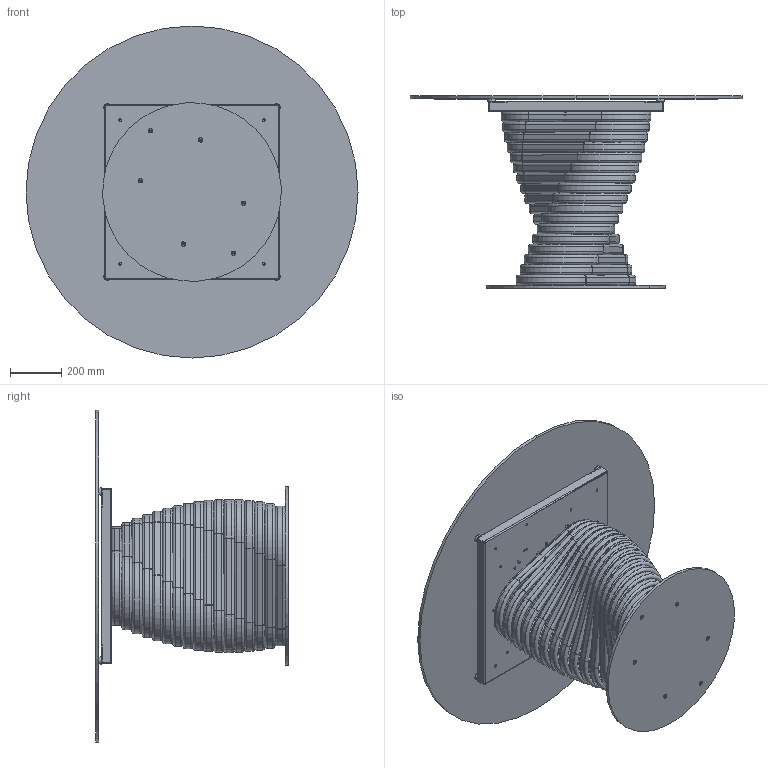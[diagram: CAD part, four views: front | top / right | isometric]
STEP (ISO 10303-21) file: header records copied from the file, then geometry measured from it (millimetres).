
FILE_DESCRIPTION (( 'STEP AP203' ), '1' );
FILE_NAME ('RO05G.STEP', '2024-08-07T13:06:38', ( '' ), ( '' ), 'SwSTEP 2.0', 'SolidWorks 2022', '' );
FILE_SCHEMA (( 'CONFIG_CONTROL_DESIGN' ));
Length unit declared in the file: millimetre
Products named in the file (15): M8xXXmm_M8x20mm; ROBX00000MED-00-Anello rotolo MEDIO_Default<A macchina>; C1XCRMXX-00-piani Rotondi Cristallo_C05 D.130cm; TTAV0801-02-TELAIO UNIVERSALE TONDO-VASSOIO; TTAV0801-02-TELAIO UNIVERSALE TONDO; rondella M8_8X24; 434070-00-PIEDINO TPV GOMMA NERO D. 30x8max18_filo estetico; ROB200000-00-PIASTRA BASE_Ø70cm; RO05G; TTAV0801 TELAIO UNIVERSALE TONDO-PIASTRINA; M8xXXmm_hex_M8X20mm; ROBX00000INF-00-Anello rotolo INFERIORE_Default<A macchina>; COLLO TELAIO UNIVERSALE TTAV0801 CON FERRAMENTA_MTG TOP CRISTALLO VERNICIATO-CERAMICA; ROBX00000-00-ROTOLO BASE 17 ANELLI; ROBX00000SUP-00-Anello rotolo SUPERIORE_Default<A macchina>
Assembly tree (45 placements, depth 4):
  RO05G
    ROB200000-00-PIASTRA BASE_Ø70cm
    ROBX00000-00-ROTOLO BASE 17 ANELLI
      ROBX00000INF-00-Anello rotolo INFERIORE_Default<A macchina>
      ROBX00000MED-00-Anello rotolo MEDIO_Default<A macchina>  x15
      ROBX00000SUP-00-Anello rotolo SUPERIORE_Default<A macchina>
    M8xXXmm_hex_M8X20mm  x6
    COLLO TELAIO UNIVERSALE TTAV0801 CON FERRAMENTA_MTG TOP CRISTALLO VERNICIATO-CERAMICA
      TTAV0801-02-TELAIO UNIVERSALE TONDO
        TTAV0801-02-TELAIO UNIVERSALE TONDO-VASSOIO
        TTAV0801 TELAIO UNIVERSALE TONDO-PIASTRINA  x4
      434070-00-PIEDINO TPV GOMMA NERO D. 30x8max18_filo estetico  x4
    rondella M8_8X24  x4
    M8xXXmm_M8x20mm  x4
    C1XCRMXX-00-piani Rotondi Cristallo_C05 D.130cm
Bounding box: 1300 x 754 x 1300 mm (x, y, z)
Volume: 27754837.4 mm3; surface area: 9588904.9 mm2
Topology: 97 solids, 97 shells, 1632 faces, 4000 edges, 2542 vertices
Faces by surface type: plane 694, cylinder 626, torus 212, cone 100
Entity records: 22537 total; most frequent: CARTESIAN_POINT 5008, DIRECTION 3284, ORIENTED_EDGE 3070, EDGE_CURVE 1535, AXIS2_PLACEMENT_3D 1209, VERTEX_POINT 989, VECTOR 866, LINE 866
